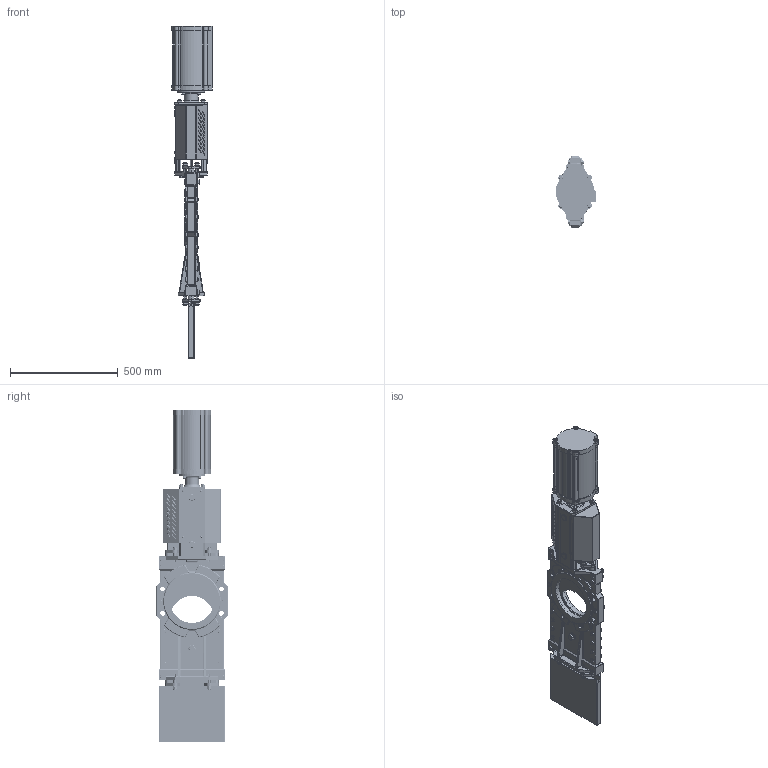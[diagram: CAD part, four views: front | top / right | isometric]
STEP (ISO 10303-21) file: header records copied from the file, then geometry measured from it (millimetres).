
FILE_DESCRIPTION(('STEP AP203'),'1');
FILE_NAME('F:/Alexander/tillfällig/NYABLOCK/HG DN200 PN10 EC160-215.stp','2013-03-19T09:52:50',(' '),(' '),'Spatial InterOp 3D',' ',' ');
FILE_SCHEMA(('CONFIG_CONTROL_DESIGN'));
Length unit declared in the file: millimetre
Products named in the file (5): 1; 2; 3; 4; 5
Bounding box: 187.25 x 330 x 1539 mm (x, y, z)
Volume: 12773523.3 mm3; surface area: 3035807.6 mm2
Topology: 5 solids, 63 shells, 4490 faces, 11274 edges, 7099 vertices
Faces by surface type: cylinder 1530, plane 1502, cone 1074, torus 320, sphere 36, bspline 28
Entity records: 145884 total; most frequent: CARTESIAN_POINT 36440, DIRECTION 23930, ORIENTED_EDGE 22412, EDGE_CURVE 11206, AXIS2_PLACEMENT_3D 9673, VERTEX_POINT 7099, CIRCLE 5102, EDGE_LOOP 5007
